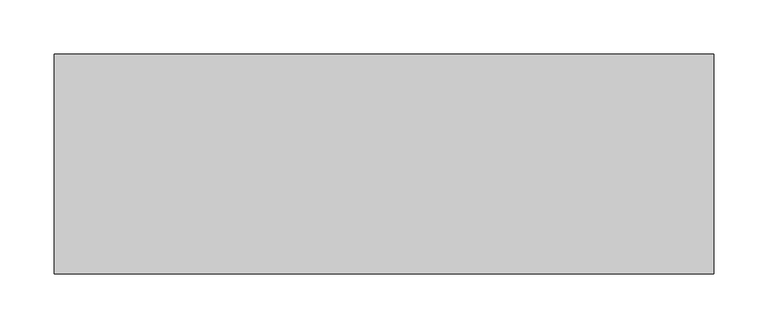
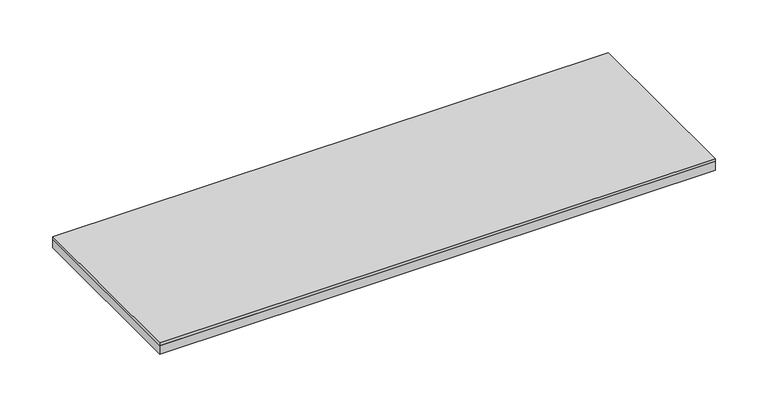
"""IFC4 building model written with IfcOpenShell, lengths in millimetres: proxy geometry, FilzFelt_Rectangle A_Block : Rectangle A = 2’-0” x 8” (61 x 20.3 cm)."""

from ifc_helpers import new_model, si_unit, frame, origin, origin_with_axes, place, context, project, spatial, polyline, outline, extrude, source, transform, mapped, element, save


def specialty_equipment_d1af641a(model_context):
    return source(origin(), model_context, "Body", "SweptSolid", [
        extrude(outline(polyline([(-304.8, -101.6), (-304.8, 101.6), (304.8, 101.6), (304.8, -101.6), (-304.8, -101.6)])), frame((0.0, 0.0, 10.0210937), z_axis=(0.0, 0.0, 1.0), x_axis=(1.0, 0.0, 0.0)), (0.0, 0.0, 1.0), 2.9765625),
        extrude(outline(polyline([(-304.8, -101.6), (-304.8, 101.6), (304.8, 101.6), (304.8, -101.6), (-304.8, -101.6)])), origin_with_axes(), (0.0, 0.0, 1.0), 10.0210938),
    ])


if __name__ == "__main__":
    model = new_model("IFC4")
    model_context = context("Model", 3, world=origin())
    ifc_project = project(units=[si_unit("LENGTHUNIT", "METRE", prefix="MILLI")], contexts=[model_context])
    site = spatial("IfcSite", under=ifc_project)
    building = spatial("IfcBuilding", under=site)
    placement = place(None, origin())
    specialty_equipment_shape = specialty_equipment_d1af641a(model_context)
    element("IfcBuildingElementProxy", 1, Name="FilzFelt_Rectangle A_Block : Rectangle A = 2’-0” x 8” (61 x 20.3 cm)", ObjectType="FilzFelt_Rectangle A_Block : Rectangle A = 2’-0” x 8” (61 x 20.3 cm)", at=placement, inside=building, context=model_context, shape_type="MappedRepresentation", body=[
        mapped(specialty_equipment_shape, transform((0.0, 0.0, 0.0), x_axis=(1.0, 0.0, 0.0), y_axis=(0.0, 1.0, 0.0), z_axis=(0.0, 0.0, 1.0))),
    ])
    save(model, "model.ifc")
